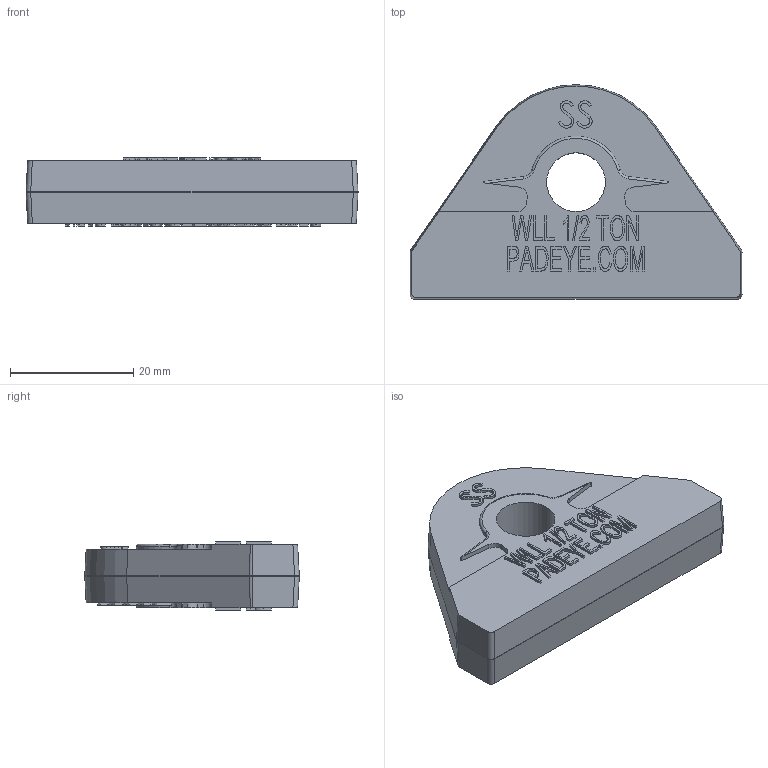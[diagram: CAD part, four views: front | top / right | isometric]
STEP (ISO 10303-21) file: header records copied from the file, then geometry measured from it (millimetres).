
FILE_DESCRIPTION (( 'STEP AP214' ), '1' );
FILE_NAME ('SSA.STEP', '2024-02-12T17:07:52', ( '' ), ( '' ), 'SwSTEP 2.0', 'SolidWorks 2018', '' );
FILE_SCHEMA (( 'AUTOMOTIVE_DESIGN' ));
Length unit declared in the file: inch
Products named in the file (1): SSA
Bounding box: 53.85 x 34.8 x 11.08 mm (x, y, z)
Volume: 12406 mm3; surface area: 4731.5 mm2
Topology: 1 solids, 1 shells, 914 faces, 2479 edges, 1644 vertices
Faces by surface type: plane 603, bspline 204, cylinder 97, sphere 4, torus 4, cone 2
Entity records: 38343 total; most frequent: CARTESIAN_POINT 16542, ORIENTED_EDGE 4950, DIRECTION 3664, EDGE_CURVE 2475, LINE 1864, VECTOR 1864, VERTEX_POINT 1642, EDGE_LOOP 995
